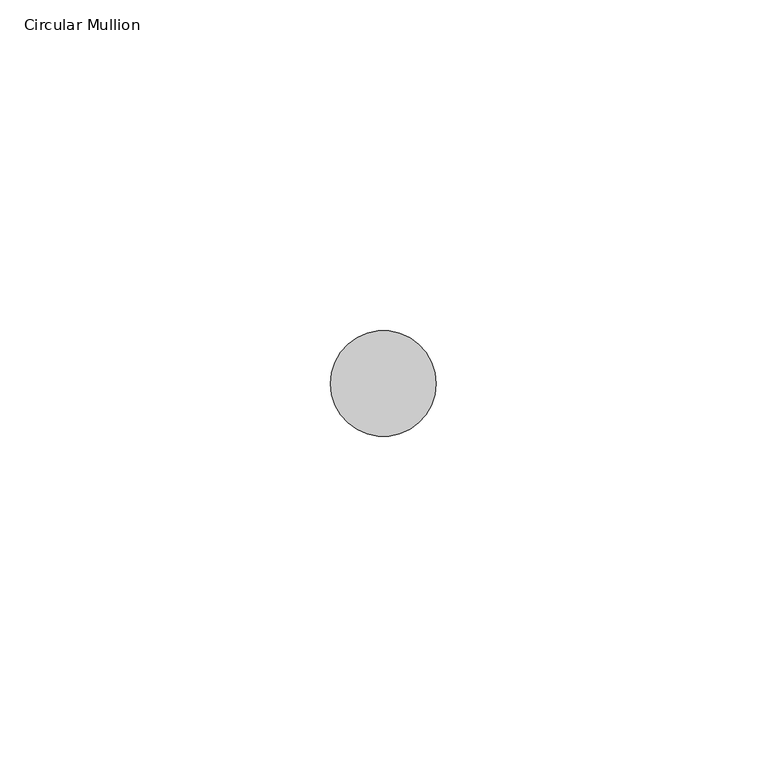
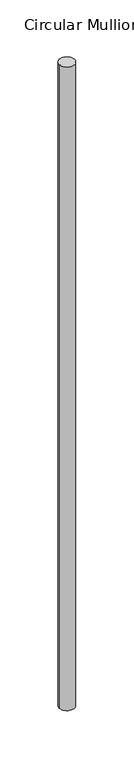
"""IFC4 building model written with IfcOpenShell, lengths in millimetres: member geometry, Circular Mullion : ARQ_HERR_16mm."""

from ifc_helpers import new_model, si_unit, point, frame, origin, origin_2d, place, context, project, spatial, circle_curve, trimmed, segment, composite_curve, outline, extrude, source, transform, mapped, element, save


def circular_mullion_f5175227(model_context):
    return source(origin(), model_context, "Body", "SweptSolid", [
        extrude(outline(composite_curve([segment(trimmed(circle_curve(origin_2d(), 8.0), [point((8.0, 0.0))], [point((-8.0, 0.0))], False, "CARTESIAN"), True, "CONTINUOUS"), segment(trimmed(circle_curve(origin_2d(), 8.0), [point((-8.0, 0.0))], [point((8.0, 0.0))], False, "CARTESIAN"), True, "CONTINUOUS")], self_intersect=False)), frame((0.0, 0.0, -713.5726703), z_axis=(0.0, 0.0, 1.0), x_axis=(1.0, 0.0, 0.0)), (0.0, 0.0, 1.0), 713.5726703),
    ])


if __name__ == "__main__":
    model = new_model("IFC4")
    model_context = context("Model", 3, world=origin())
    ifc_project = project(units=[si_unit("LENGTHUNIT", "METRE", prefix="MILLI")], contexts=[model_context])
    site = spatial("IfcSite", under=ifc_project)
    building = spatial("IfcBuilding", under=site)
    placement = place(None, origin())
    circular_mullion_shape = circular_mullion_f5175227(model_context)
    element("IfcMember", 1, ObjectType="Circular Mullion : ARQ_HERR_16mm", at=placement, inside=building, context=model_context, shape_type="MappedRepresentation", body=[
        mapped(circular_mullion_shape, transform((0.0, 0.0, 0.0), x_axis=(1.0, 0.0, 0.0), y_axis=(0.0, 1.0, 0.0), z_axis=(0.0, 0.0, 1.0))),
    ])
    save(model, "model.ifc")
